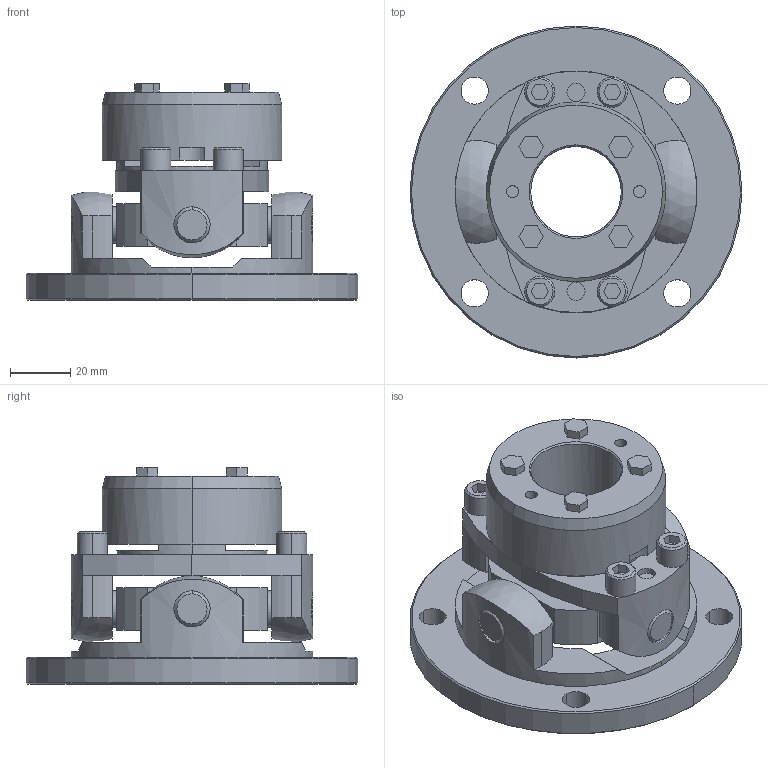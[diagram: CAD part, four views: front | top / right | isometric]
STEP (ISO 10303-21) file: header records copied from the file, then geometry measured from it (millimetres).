
FILE_DESCRIPTION((''),'2;1');
FILE_NAME('UCNF-80T7-30.stp','2011-09-17T16:31:08',(''),(''),'AutoCAD STEP 2000i','AutoCAD 2000i',', , ');
FILE_SCHEMA(('CONFIG_CONTROL_DESIGN'));
Length unit declared in the file: millimetre
Products named in the file (11): UCNF-80T7-30; 忣兜1; UCN80T7-T030; UCN80T7-T028; UCN80T7-T024; UCN80T7-T022; UCN80T7-T019; UCNF-8002; UCN80T7-T017-1; UCN80T7-T017; UCN80-SEN
Assembly tree (10 placements, depth 2):
  UCNF-80T7-30
    忣兜1
    UCN80T7-T030
    UCN80T7-T028
    UCN80T7-T024
    UCN80T7-T022
    UCN80T7-T019
    UCNF-8002
    UCN80T7-T017-1
    UCN80T7-T017
    UCN80-SEN
Bounding box: 110 x 110 x 71.8 mm (x, y, z)
Volume: 195640.9 mm3; surface area: 55739.6 mm2
Topology: 1 solids, 1 shells, 286 faces, 718 edges, 468 vertices
Faces by surface type: plane 138, cylinder 106, cone 38, sphere 4
Entity records: 9279 total; most frequent: CARTESIAN_POINT 1887, DIRECTION 1602, ORIENTED_EDGE 1436, EDGE_CURVE 718, AXIS2_PLACEMENT_3D 603, VERTEX_POINT 468, VECTOR 396, LINE 396
